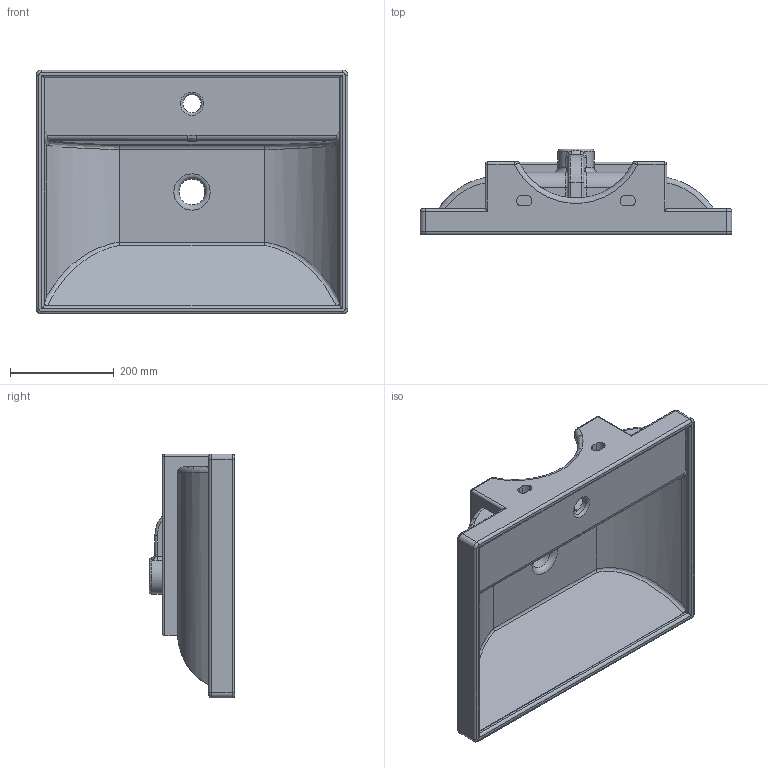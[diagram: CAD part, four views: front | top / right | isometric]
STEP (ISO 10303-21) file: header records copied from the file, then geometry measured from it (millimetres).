
FILE_DESCRIPTION( ( 'Unknown' ), '1' );
FILE_NAME( 'C:/Documents and Settings/s.pallini/Desktop/Scarabeo 17-6/Scarabeo 1-7/ML 60x47.stp', 'Unknown', ( 'Unknown' ), ( 'Unknown' ), 'PSStep 11.0', 'Unknown', ' ' );
FILE_SCHEMA( ( 'AUTOMOTIVE_DESIGN { 1 0 10303 214 1 1 1 1 }' ) );
Length unit declared in the file: millimetre
Products named in the file (1): 1
Bounding box: 600 x 165 x 470 mm (x, y, z)
Volume: 9617654.6 mm3; surface area: 945761.4 mm2
Topology: 1 solids, 1 shells, 145 faces, 363 edges, 217 vertices
Faces by surface type: cylinder 67, plane 37, torus 20, bspline 19, sphere 2
Full cylindrical faces by diameter (mm): 20 x1, 35 x1, 50 x1
Entity records: 9612 total; most frequent: CARTESIAN_POINT 5112, ORIENTED_EDGE 700, DIRECTION 691, EDGE_CURVE 350, AXIS2_PLACEMENT_3D 267, VERTEX_POINT 214, EDGE_LOOP 160, LINE 157
